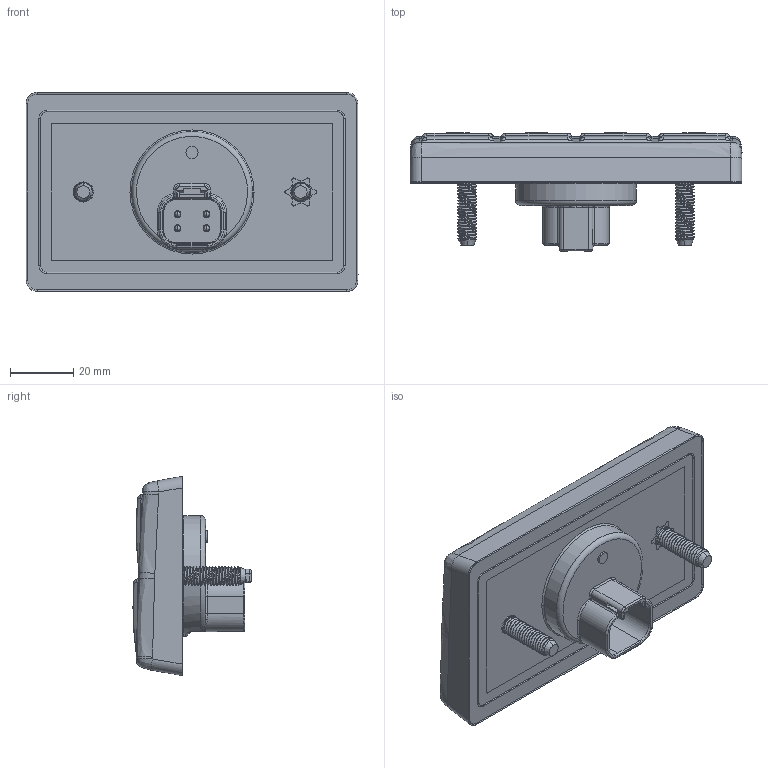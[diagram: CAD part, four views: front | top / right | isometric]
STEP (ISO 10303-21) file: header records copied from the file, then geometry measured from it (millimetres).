
FILE_DESCRIPTION(/* description */ ('Alibre Inc.'),/* implementation_level */ '2;1');
FILE_NAME(/* name */ 'export0',/* time_stamp */ '2016-10-13T09:24:05+11:00',/* author */ (''),/* organization */ (''),/* preprocessor_version */ 'ST-DEVELOPER v14',/* originating_system */ 'Alibre',/* authorisation */ '');
FILE_SCHEMA (('AUTOMOTIVE_DESIGN'));
Length unit declared in the file: inch
Products named in the file (1): 3K108-2R
Bounding box: 104.7 x 37.23 x 62.82 mm (x, y, z)
Volume: 90206.4 mm3; surface area: 26949 mm2
Topology: 1 solids, 22 shells, 413 faces, 1143 edges, 717 vertices
Faces by surface type: cylinder 153, bspline 124, plane 53, torus 31, cone 22, extrusion 16, sphere 14
Entity records: 25681 total; most frequent: CARTESIAN_POINT 16517, ORIENTED_EDGE 2116, DIRECTION 1469, EDGE_CURVE 1122, VERTEX_POINT 717, AXIS2_PLACEMENT_3D 564, B_SPLINE_CURVE_WITH_KNOTS 438, VECTOR 425
